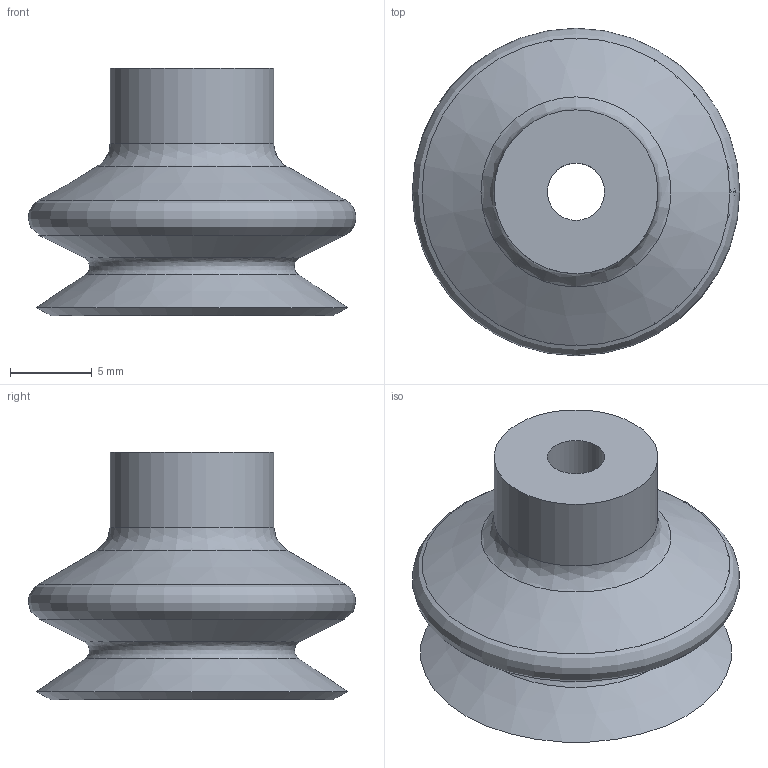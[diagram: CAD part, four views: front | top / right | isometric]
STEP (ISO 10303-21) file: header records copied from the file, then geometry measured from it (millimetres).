
FILE_DESCRIPTION(('STEP AP214'),'1');
FILE_NAME('CA.08.31.004.stp','2019-04-17T13:25:27',(' '),(' '),'Spatial InterOp 3D',' ',' ');
FILE_SCHEMA(('AUTOMOTIVE_DESIGN { 1 0 10303 214 1 1 1 1 }'));
Length unit declared in the file: millimetre
Products named in the file (1): CA.08.31.004
Bounding box: 20 x 19.99 x 15.11 mm (x, y, z)
Volume: 2388.6 mm3; surface area: 4896.3 mm2
Topology: 1 solids, 1 shells, 18 faces, 47 edges, 32 vertices
Faces by surface type: cone 7, revolution 5, cylinder 3, plane 3
Full cylindrical faces by diameter (mm): 3.5 x1, 5.16 x1, 10 x1
Entity records: 558 total; most frequent: CARTESIAN_POINT 90, DIRECTION 69, EDGE_LOOP 36, ORIENTED_EDGE 36, AXIS2_PLACEMENT_3D 32, FACE_OUTER_BOUND 26, STYLED_ITEM 18, PRESENTATION_STYLE_ASSIGNMENT 18
